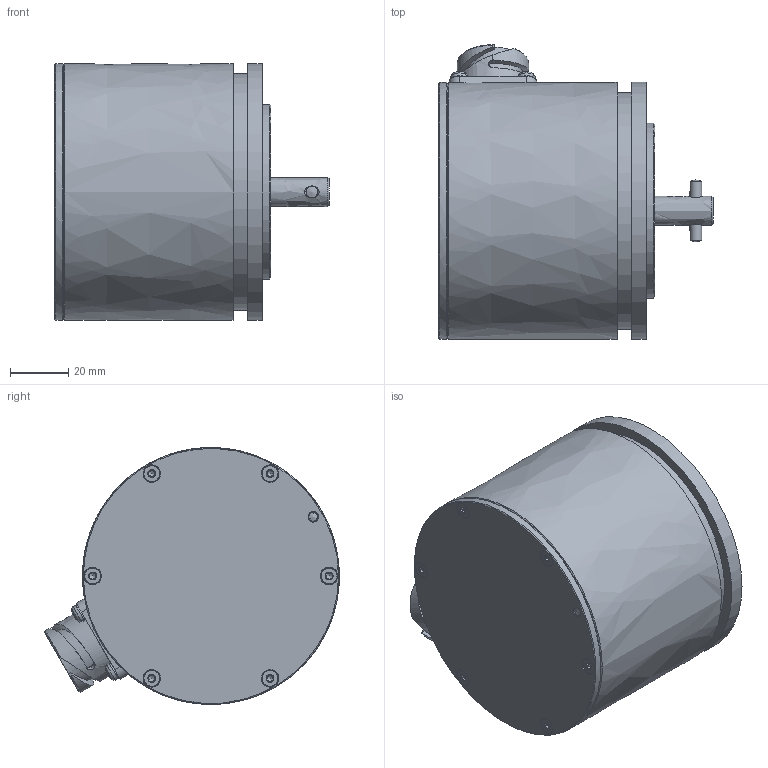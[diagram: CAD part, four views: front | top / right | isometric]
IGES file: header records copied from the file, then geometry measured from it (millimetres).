
Global section: file name: XT00000105 - XT90 3D-Modell ITT-Cannon 7-polig seitlich A; native system: Autodesk Inventor 2016; preprocessor: unknown; organization: IBS-Hühne GmbH,; date: 20160316.092754; units: millimetre
Bounding box: 94.1 x 100.96 x 87.99 mm (x, y, z)
Volume: 864.2 mm3; surface area: 41291.3 mm2
Topology: 1 solids, 4 shells, 834 faces, 2368 edges, 1598 vertices
Faces by surface type: bspline 834
